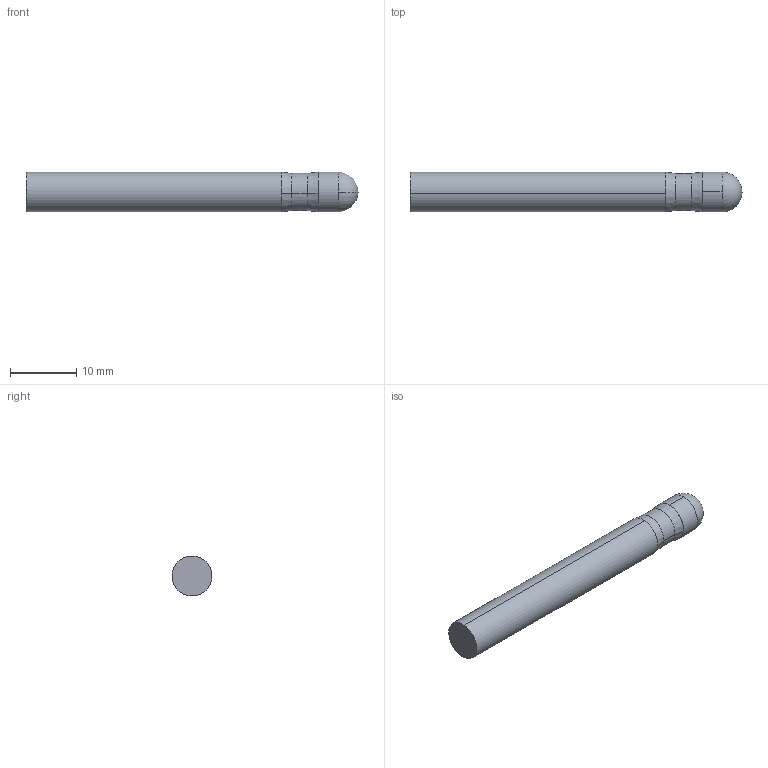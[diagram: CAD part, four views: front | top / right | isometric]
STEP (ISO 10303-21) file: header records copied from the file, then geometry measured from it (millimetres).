
FILE_DESCRIPTION (( 'STEP AP214' ), '1' );
FILE_NAME ('HM70xBN3006.STEP', '2025-05-20T15:03:12', ( '' ), ( '' ), 'SwSTEP 2.0', 'SolidWorks 2023', '' );
FILE_SCHEMA (( 'AUTOMOTIVE_DESIGN' ));
Length unit declared in the file: millimetre
Products named in the file (3): HM70xBN SHANK ONLY_HM70xBN3006; HM70xBN3006; HM70xBN OD ONLY_HM70xBN3006
Assembly tree (2 placements, depth 2):
  HM70xBN3006
    HM70xBN OD ONLY_HM70xBN3006
    HM70xBN SHANK ONLY_HM70xBN3006
Bounding box: 50 x 6 x 6 mm (x, y, z)
Volume: 1371 mm3; surface area: 1022.8 mm2
Topology: 2 solids, 2 shells, 15 faces, 32 edges, 19 vertices
Faces by surface type: cylinder 6, cone 4, plane 3, sphere 2
Entity records: 598 total; most frequent: DIRECTION 90, CARTESIAN_POINT 69, ORIENTED_EDGE 60, AXIS2_PLACEMENT_3D 40, EDGE_CURVE 30, CIRCLE 20, VERTEX_POINT 19, UNCERTAINTY_MEASURE_WITH_UNIT 15
